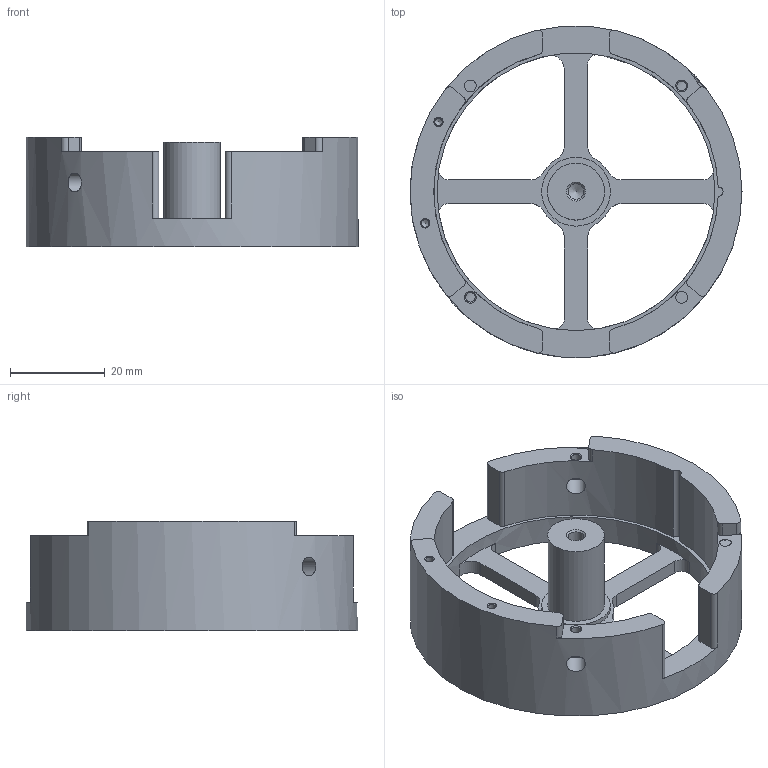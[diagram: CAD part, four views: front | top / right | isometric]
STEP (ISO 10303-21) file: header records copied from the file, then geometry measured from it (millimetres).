
FILE_DESCRIPTION(/* description */ (''),/* implementation_level */ '2;1');
FILE_NAME(/* name */ 'ri60霍尔测试_stp.stp',/* time_stamp */ '2022-12-07T19:05:58+08:00',/* author */ (''),/* organization */ (''),/* preprocessor_version */ 'ST-DEVELOPER v16.7',/* originating_system */ 'SIEMENS PLM Software NX 12.0',/* authorisation */ '');
FILE_SCHEMA (('AUTOMOTIVE_DESIGN { 1 0 10303 214 3 1 1 1 }'));
Length unit declared in the file: millimetre
Products named in the file (1): ri60霍尔测试_stp
Bounding box: 70 x 69.89 x 23 mm (x, y, z)
Volume: 24384.4 mm3; surface area: 13330.7 mm2
Topology: 1 solids, 1 shells, 92 faces, 264 edges, 173 vertices
Faces by surface type: cylinder 53, plane 27, cone 12
Full cylindrical faces by diameter (mm): 1.6 x2, 2.05 x4, 3.3 x1, 4 x2, 12 x1, 14.5 x1, 58.6 x1, 70 x1
Entity records: 3258 total; most frequent: CARTESIAN_POINT 838, DIRECTION 534, ORIENTED_EDGE 458, EDGE_CURVE 229, AXIS2_PLACEMENT_3D 218, VERTEX_POINT 168, EDGE_LOOP 132, CIRCLE 125
